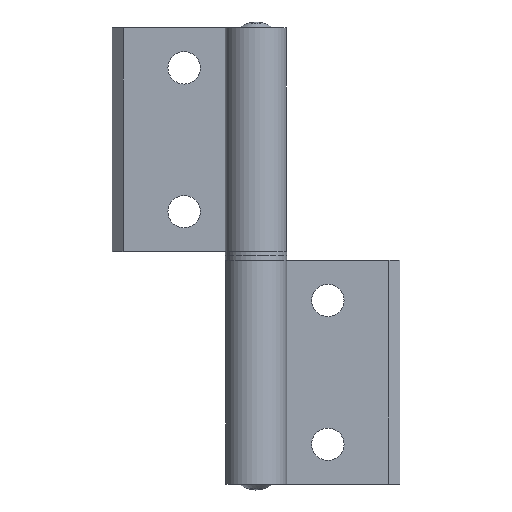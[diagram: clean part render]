
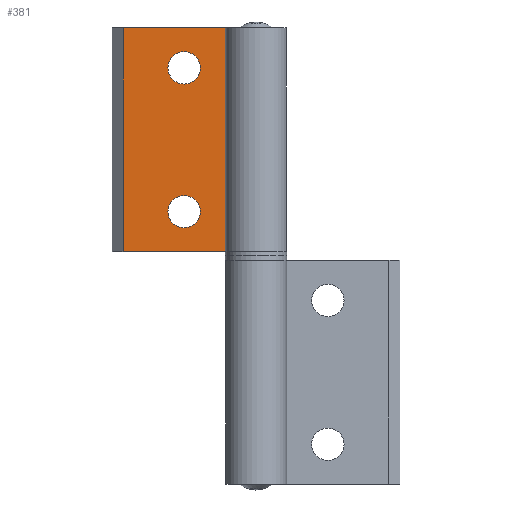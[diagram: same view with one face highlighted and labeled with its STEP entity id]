
A CAD part, top view. The second image highlights one B-rep face of the part: STEP entity #381.
In plain terms, the highlighted planar face has unit normal (0, 0, 1).
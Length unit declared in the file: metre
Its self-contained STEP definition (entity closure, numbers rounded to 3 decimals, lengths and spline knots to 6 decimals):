
#381 = ADVANCED_FACE( '', ( #440, #441, #442 ), #443, .T. );
#440 = FACE_OUTER_BOUND( '', #570, .T. );
#441 = FACE_BOUND( '', #571, .T. );
#442 = FACE_BOUND( '', #572, .T. );
#443 = PLANE( '', #573 );
#570 = EDGE_LOOP( '', ( #821, #822, #823, #824 ) );
#571 = EDGE_LOOP( '', ( #825 ) );
#572 = EDGE_LOOP( '', ( #826 ) );
#573 = AXIS2_PLACEMENT_3D( '', #827, #828, #829 );
#821 = ORIENTED_EDGE( '', *, *, #1065, .T. );
#822 = ORIENTED_EDGE( '', *, *, #1069, .T. );
#823 = ORIENTED_EDGE( '', *, *, #1077, .T. );
#824 = ORIENTED_EDGE( '', *, *, #1075, .F. );
#825 = ORIENTED_EDGE( '', *, *, #1078, .T. );
#826 = ORIENTED_EDGE( '', *, *, #1079, .T. );
#827 = CARTESIAN_POINT( '', ( 0.032206, 0.229412, -0.015 ) );
#828 = DIRECTION( '', ( 0., 0., 1. ) );
#829 = DIRECTION( '', ( -1., 0., 0. ) );
#1065 = EDGE_CURVE( '', #1153, #1151, #1154, .T. );
#1069 = EDGE_CURVE( '', #1151, #1158, #1160, .T. );
#1075 = EDGE_CURVE( '', #1153, #1169, #1170, .T. );
#1077 = EDGE_CURVE( '', #1158, #1169, #1172, .T. );
#1078 = EDGE_CURVE( '', #1173, #1173, #1174, .T. );
#1079 = EDGE_CURVE( '', #1175, #1175, #1176, .T. );
#1151 = VERTEX_POINT( '', #1299 );
#1153 = VERTEX_POINT( '', #1302 );
#1154 = LINE( '', #1303, #1304 );
#1158 = VERTEX_POINT( '', #1308 );
#1160 = LINE( '', #1311, #1312 );
#1169 = VERTEX_POINT( '', #1325 );
#1170 = LINE( '', #1326, #1327 );
#1172 = LINE( '', #1329, #1330 );
#1173 = VERTEX_POINT( '', #1331 );
#1174 = CIRCLE( '', #1332, 0.0045 );
#1175 = VERTEX_POINT( '', #1333 );
#1176 = CIRCLE( '', #1334, 0.0045 );
#1299 = CARTESIAN_POINT( '', ( 0.003, 0.229412, -0.015 ) );
#1302 = CARTESIAN_POINT( '', ( 0.032206, 0.229412, -0.015 ) );
#1303 = CARTESIAN_POINT( '', ( 0.017603, 0.229412, -0.015 ) );
#1304 = VECTOR( '', #1470, 1. );
#1308 = CARTESIAN_POINT( '', ( 0.003, 0.167112, -0.015 ) );
#1311 = CARTESIAN_POINT( '', ( 0.003, 0.198262, -0.015 ) );
#1312 = VECTOR( '', #1478, 1. );
#1325 = CARTESIAN_POINT( '', ( 0.032206, 0.167112, -0.015 ) );
#1326 = CARTESIAN_POINT( '', ( 0.032206, 0.198262, -0.015 ) );
#1327 = VECTOR( '', #1486, 1. );
#1329 = CARTESIAN_POINT( '', ( 0.017603, 0.167112, -0.015 ) );
#1330 = VECTOR( '', #1490, 1. );
#1331 = CARTESIAN_POINT( '', ( 0.0155, 0.218262, -0.015 ) );
#1332 = AXIS2_PLACEMENT_3D( '', #1491, #1492, #1493 );
#1333 = CARTESIAN_POINT( '', ( 0.0155, 0.178262, -0.015 ) );
#1334 = AXIS2_PLACEMENT_3D( '', #1494, #1495, #1496 );
#1470 = DIRECTION( '', ( -1., 0., 0. ) );
#1478 = DIRECTION( '', ( 0., -1., 0. ) );
#1486 = DIRECTION( '', ( 0., -1., 0. ) );
#1490 = DIRECTION( '', ( 1., 0., 0. ) );
#1491 = CARTESIAN_POINT( '', ( 0.02, 0.218262, -0.015 ) );
#1492 = DIRECTION( '', ( 0., 0., -1. ) );
#1493 = DIRECTION( '', ( -1., 0., 0. ) );
#1494 = CARTESIAN_POINT( '', ( 0.02, 0.178262, -0.015 ) );
#1495 = DIRECTION( '', ( 0., 0., -1. ) );
#1496 = DIRECTION( '', ( -1., 0., 0. ) );
